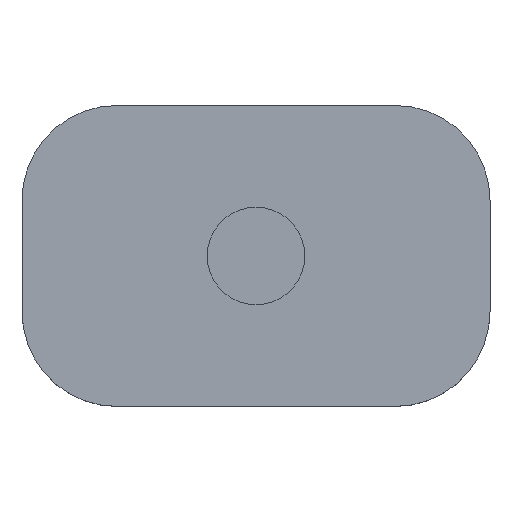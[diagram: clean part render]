
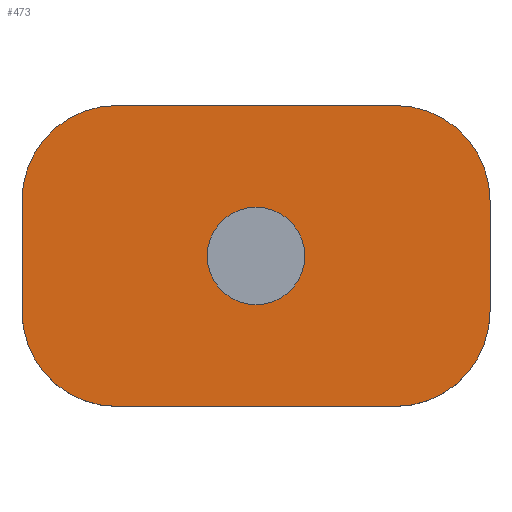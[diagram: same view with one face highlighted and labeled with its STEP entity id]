
A CAD part, top view. The second image highlights one B-rep face of the part: STEP entity #473.
In plain terms, the highlighted planar face has unit normal (0, 0, 1).
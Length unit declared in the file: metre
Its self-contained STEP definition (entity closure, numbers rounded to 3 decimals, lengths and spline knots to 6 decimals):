
#16=CIRCLE('',#494,0.0034);
#18=CIRCLE('',#497,0.0034);
#20=CIRCLE('',#500,0.0034);
#22=CIRCLE('',#503,0.0034);
#44=CIRCLE('',#544,0.00175);
#179=ORIENTED_EDGE('',*,*,#255,.F.);
#180=ORIENTED_EDGE('',*,*,#192,.F.);
#181=ORIENTED_EDGE('',*,*,#207,.F.);
#182=ORIENTED_EDGE('',*,*,#196,.F.);
#183=ORIENTED_EDGE('',*,*,#209,.F.);
#184=ORIENTED_EDGE('',*,*,#199,.T.);
#185=ORIENTED_EDGE('',*,*,#211,.F.);
#186=ORIENTED_EDGE('',*,*,#203,.T.);
#187=ORIENTED_EDGE('',*,*,#213,.F.);
#192=EDGE_CURVE('',#257,#259,#300,.T.);
#196=EDGE_CURVE('',#261,#263,#304,.T.);
#199=EDGE_CURVE('',#265,#266,#307,.T.);
#203=EDGE_CURVE('',#269,#270,#311,.T.);
#207=EDGE_CURVE('',#263,#257,#16,.T.);
#209=EDGE_CURVE('',#265,#261,#18,.T.);
#211=EDGE_CURVE('',#269,#266,#20,.T.);
#213=EDGE_CURVE('',#259,#270,#22,.T.);
#255=EDGE_CURVE('',#297,#297,#44,.T.);
#257=VERTEX_POINT('',#707);
#259=VERTEX_POINT('',#710);
#261=VERTEX_POINT('',#716);
#263=VERTEX_POINT('',#719);
#265=VERTEX_POINT('',#725);
#266=VERTEX_POINT('',#726);
#269=VERTEX_POINT('',#734);
#270=VERTEX_POINT('',#735);
#297=VERTEX_POINT('',#837);
#300=LINE('',#709,#336);
#304=LINE('',#718,#340);
#307=LINE('',#724,#343);
#311=LINE('',#733,#347);
#336=VECTOR('',#553,1.);
#340=VECTOR('',#559,1.);
#343=VECTOR('',#564,1.);
#347=VECTOR('',#570,1.);
#398=EDGE_LOOP('',(#179));
#399=EDGE_LOOP('',(#180,#181,#182,#183,#184,#185,#186,#187));
#430=FACE_BOUND('',#398,.T.);
#431=FACE_BOUND('',#399,.T.);
#445=PLANE('',#543);
#473=ADVANCED_FACE('',(#430,#431),#445,.T.);
#494=AXIS2_PLACEMENT_3D('',#742,#576,#577);
#497=AXIS2_PLACEMENT_3D('',#745,#582,#583);
#500=AXIS2_PLACEMENT_3D('',#748,#588,#589);
#503=AXIS2_PLACEMENT_3D('',#751,#594,#595);
#543=AXIS2_PLACEMENT_3D('',#835,#694,#695);
#544=AXIS2_PLACEMENT_3D('',#836,#696,#697);
#553=DIRECTION('',(-1.,0.,0.));
#559=DIRECTION('',(0.,-1.,0.));
#564=DIRECTION('',(-1.,0.,0.));
#570=DIRECTION('',(0.,-1.,0.));
#576=DIRECTION('',(0.,0.,-1.));
#577=DIRECTION('',(1.,0.,0.));
#582=DIRECTION('',(0.,0.,-1.));
#583=DIRECTION('',(1.,0.,0.));
#588=DIRECTION('',(0.,0.,-1.));
#589=DIRECTION('',(1.,0.,0.));
#594=DIRECTION('',(0.,0.,-1.));
#595=DIRECTION('',(1.,0.,0.));
#694=DIRECTION('',(0.,0.,1.));
#695=DIRECTION('',(1.,0.,0.));
#696=DIRECTION('',(0.,0.,1.));
#697=DIRECTION('',(1.,0.,0.));
#707=CARTESIAN_POINT('',(0.25225,-0.01295,-0.01595));
#709=CARTESIAN_POINT('',(0.24725,-0.01295,-0.01595));
#710=CARTESIAN_POINT('',(0.24225,-0.01295,-0.01595));
#716=CARTESIAN_POINT('',(0.25565,-0.00555,-0.01595));
#718=CARTESIAN_POINT('',(0.25565,-0.00755,-0.01595));
#719=CARTESIAN_POINT('',(0.25565,-0.00955,-0.01595));
#724=CARTESIAN_POINT('',(0.24725,-0.00215,-0.01595));
#725=CARTESIAN_POINT('',(0.25225,-0.00215,-0.01595));
#726=CARTESIAN_POINT('',(0.24225,-0.00215,-0.01595));
#733=CARTESIAN_POINT('',(0.23885,-0.00755,-0.01595));
#734=CARTESIAN_POINT('',(0.23885,-0.00555,-0.01595));
#735=CARTESIAN_POINT('',(0.23885,-0.00955,-0.01595));
#742=CARTESIAN_POINT('',(0.25225,-0.00955,-0.01595));
#745=CARTESIAN_POINT('',(0.25225,-0.00555,-0.01595));
#748=CARTESIAN_POINT('',(0.24225,-0.00555,-0.01595));
#751=CARTESIAN_POINT('',(0.24225,-0.00955,-0.01595));
#835=CARTESIAN_POINT('',(0.24725,-0.00755,-0.01595));
#836=CARTESIAN_POINT('',(0.24725,-0.00755,-0.01595));
#837=CARTESIAN_POINT('',(0.249,-0.00755,-0.01595));
